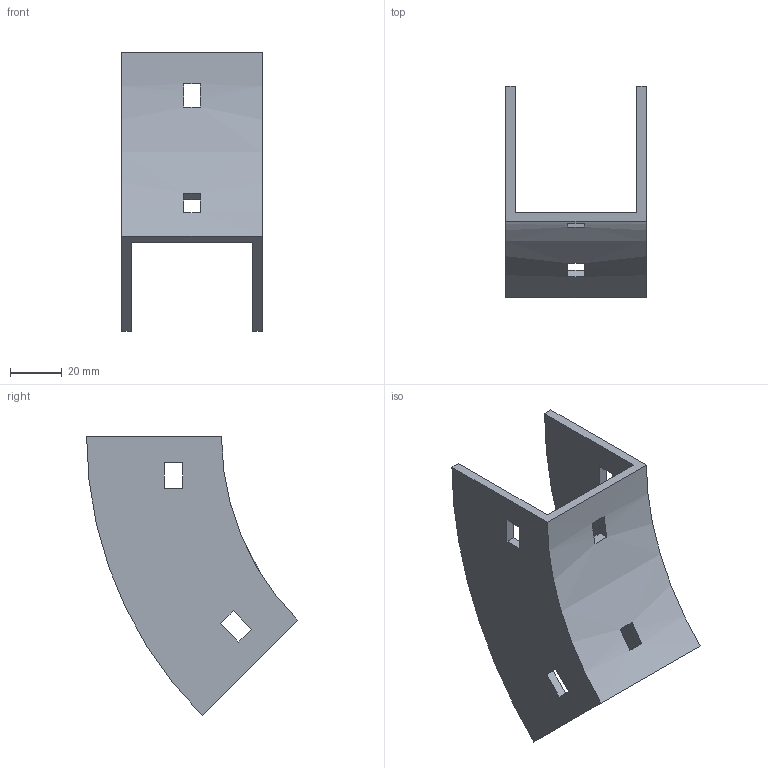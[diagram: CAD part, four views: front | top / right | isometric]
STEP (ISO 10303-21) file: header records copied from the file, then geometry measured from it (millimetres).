
FILE_DESCRIPTION (( 'STEP AP214' ), '1' );
FILE_NAME ('34B1B050.step', '2025-02-21T09:28:07', ( '' ), ( '' ), 'SwSTEP 2.0', 'SolidWorks 2023', '' );
FILE_SCHEMA (( 'AUTOMOTIVE_DESIGN' ));
Length unit declared in the file: millimetre
Products named in the file (1): 34B1B050
Bounding box: 54 x 81.29 x 107.48 mm (x, y, z)
Volume: 47772.3 mm3; surface area: 29877.5 mm2
Topology: 1 solids, 1 shells, 34 faces, 96 edges, 64 vertices
Faces by surface type: plane 30, cylinder 4
Entity records: 1143 total; most frequent: CARTESIAN_POINT 195, ORIENTED_EDGE 192, DIRECTION 182, EDGE_CURVE 96, LINE 80, VECTOR 80, VERTEX_POINT 64, AXIS2_PLACEMENT_3D 51
